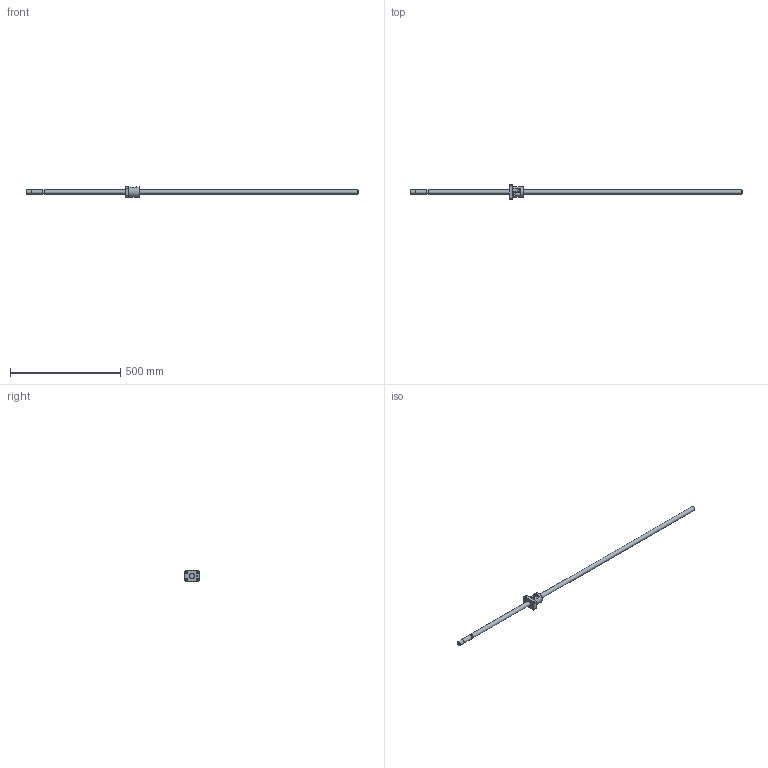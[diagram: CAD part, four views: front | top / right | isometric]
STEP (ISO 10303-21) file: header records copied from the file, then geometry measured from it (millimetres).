
FILE_DESCRIPTION (( 'STEP AP214' ), '1' );
FILE_NAME ('KBS(C)2010-1505.STEP', '2021-07-05T02:21:59', ( '' ), ( '' ), 'SwSTEP 2.0', 'SolidWorks 2019', '' );
FILE_SCHEMA (( 'AUTOMOTIVE_DESIGN' ));
Length unit declared in the file: millimetre
Products named in the file (3): KBS(C)2010-1505; KBS2010-1505; KBS2010
Assembly tree (2 placements, depth 2):
  KBS(C)2010-1505
    KBS2010-1505
    KBS2010
Bounding box: 1505 x 66 x 46 mm (x, y, z)
Volume: 570134.1 mm3; surface area: 117641.3 mm2
Topology: 2 solids, 2 shells, 103 faces, 259 edges, 171 vertices
Faces by surface type: plane 55, cylinder 40, cone 4, torus 4
Full cylindrical faces by diameter (mm): 4.8 x1, 5 x1, 6.6 x4, 7.4 x2, 11 x4, 16 x1, 19.5 x1, 20 x3, 22 x2, 46 x1
Entity records: 3295 total; most frequent: CARTESIAN_POINT 860, DIRECTION 464, ORIENTED_EDGE 448, EDGE_CURVE 224, AXIS2_PLACEMENT_3D 176, VERTEX_POINT 164, EDGE_LOOP 158, FACE_OUTER_BOUND 127
